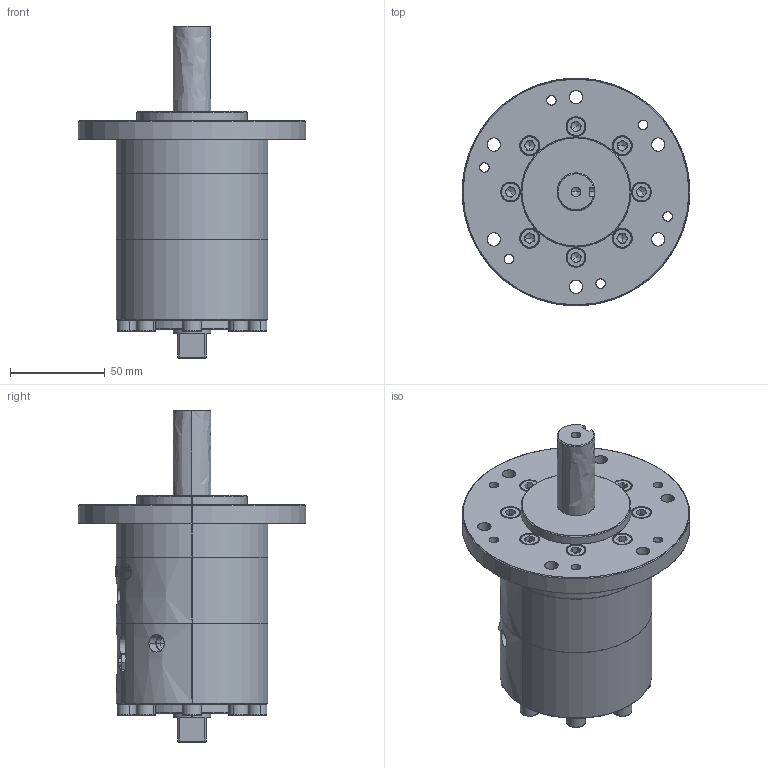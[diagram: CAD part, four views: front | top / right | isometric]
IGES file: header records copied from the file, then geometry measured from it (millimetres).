
Start section: SolidWorks IGES file using analytic representation for surfaces
Global section: file name: C:\Users\Chieh_Lu\Dropbox\¤u§@«Ç\HRN\HRN30S-C.IGS; native system: SolidWorks 2014; preprocessor: SolidWorks 2014; author: Chieh_Lu; date: 160115.010004; units: millimetre
Bounding box: 120 x 120 x 175 mm (x, y, z)
Surface area: 119274.3 mm2 (no closed solid volume)
Topology: 0 solids, 0 shells, 819 faces, 10204 edges, 10132 vertices
Faces by surface type: bspline 445, revolution 374
